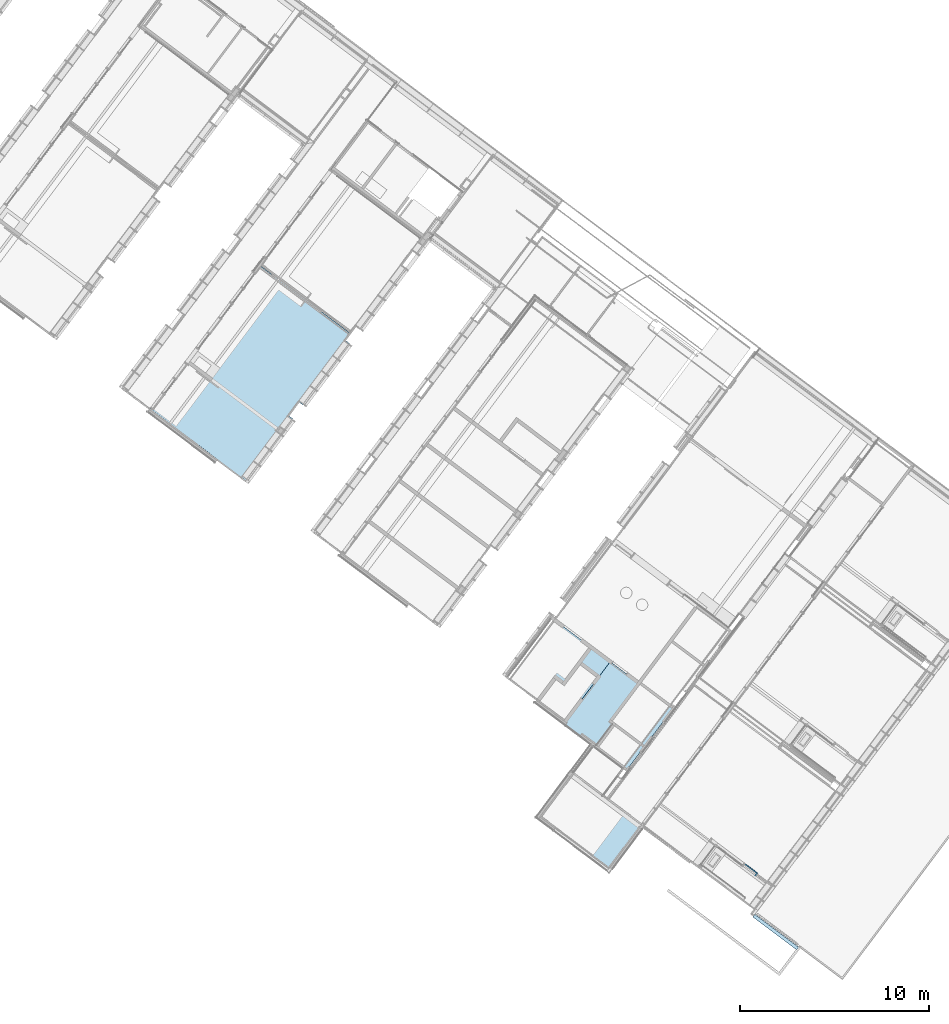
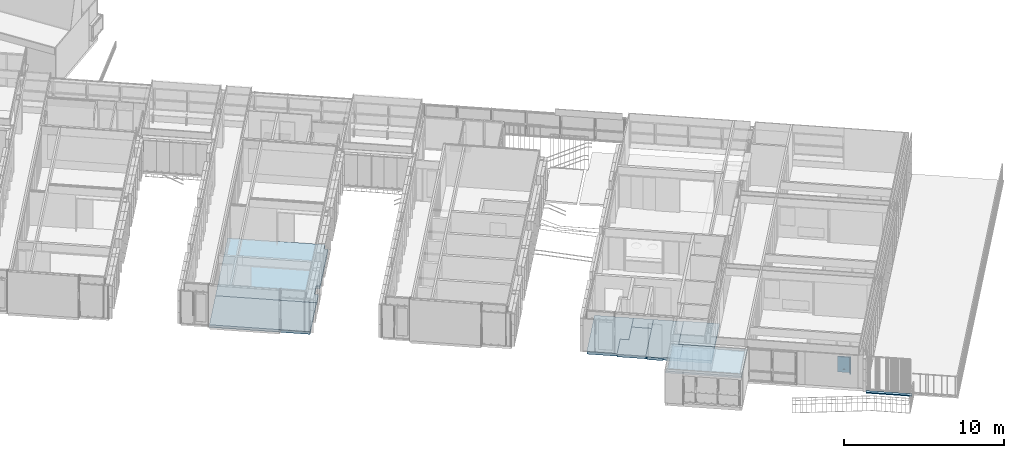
# One storey, part 109 of 243: 10 slabs, 1 plate, 1 element without a shape of its own.
"""IFC2X3 building model written with IfcOpenShell, lengths in metres."""

from ifc_helpers import new_model, entity, si_unit, converted_unit, derived_unit, direction, frame, frame_2d, origin, origin_2d_with_axis, place, context, subcontext, project, spatial, polyline, rectangle, outline, extrude, clip, halfspace, faceted_brep, source, transform, mapped, material, material_list, layer, layer_set, layer_usage, type_object, type_shapes, element, aggregate, save


model = new_model("IFC2X3")

# Units and contexts
model_context = context("Model", 3, precision=1e-05, world=origin(), true_north=direction((6.123031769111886e-17, 1.0)))
body_context = subcontext(model_context, "Body", "Model", "MODEL_VIEW")
ifc_project = project(units=[si_unit("LENGTHUNIT", "METRE"), si_unit("AREAUNIT", "SQUARE_METRE"), si_unit("VOLUMEUNIT", "CUBIC_METRE"), converted_unit("PLANEANGLEUNIT", "DEGREE", entity("IfcRatioMeasure", 0.017453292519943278), si_unit("PLANEANGLEUNIT", "RADIAN"), dimensions=[0, 0, 0, 0, 0, 0, 0]), si_unit("MASSUNIT", "GRAM", prefix="KILO"), derived_unit("MASSDENSITYUNIT", [(si_unit("MASSUNIT", "GRAM", prefix="KILO"), 1), (si_unit("LENGTHUNIT", "METRE"), -3)]), derived_unit("IONCONCENTRATIONUNIT", [(si_unit("MASSUNIT", "GRAM", prefix="KILO"), 1), (si_unit("LENGTHUNIT", "METRE"), -3)]), derived_unit("MOMENTOFINERTIAUNIT", [(si_unit("LENGTHUNIT", "METRE"), 4)]), si_unit("TIMEUNIT", "SECOND"), si_unit("FREQUENCYUNIT", "HERTZ"), si_unit("THERMODYNAMICTEMPERATUREUNIT", "DEGREE_CELSIUS"), derived_unit("THERMALTRANSMITTANCEUNIT", [(si_unit("MASSUNIT", "GRAM", prefix="KILO"), 1), (si_unit("THERMODYNAMICTEMPERATUREUNIT", "KELVIN"), -1), (si_unit("TIMEUNIT", "SECOND"), -3)]), derived_unit("THERMALCONDUCTANCEUNIT", [(si_unit("MASSUNIT", "GRAM", prefix="KILO"), 1), (si_unit("THERMODYNAMICTEMPERATUREUNIT", "KELVIN"), -1), (si_unit("TIMEUNIT", "SECOND"), -3), (si_unit("LENGTHUNIT", "METRE"), 1)]), derived_unit("VOLUMETRICFLOWRATEUNIT", [(si_unit("LENGTHUNIT", "METRE"), 3), (si_unit("TIMEUNIT", "SECOND"), -1)]), derived_unit("MASSFLOWRATEUNIT", [(si_unit("MASSUNIT", "GRAM", prefix="KILO"), 1), (si_unit("TIMEUNIT", "SECOND"), -1)]), derived_unit("ROTATIONALFREQUENCYUNIT", [(si_unit("TIMEUNIT", "SECOND"), -1)]), si_unit("ELECTRICCURRENTUNIT", "AMPERE"), si_unit("ELECTRICVOLTAGEUNIT", "VOLT"), si_unit("POWERUNIT", "WATT"), si_unit("FORCEUNIT", "NEWTON", prefix="KILO"), si_unit("ILLUMINANCEUNIT", "LUX"), si_unit("LUMINOUSFLUXUNIT", "LUMEN"), si_unit("LUMINOUSINTENSITYUNIT", "CANDELA"), derived_unit("USERDEFINED", [(si_unit("MASSUNIT", "GRAM", prefix="KILO"), -1), (si_unit("LENGTHUNIT", "METRE"), -2), (si_unit("TIMEUNIT", "SECOND"), 3), (si_unit("LUMINOUSFLUXUNIT", "LUMEN"), 1)]), derived_unit("USERDEFINED", [(si_unit("MASSUNIT", "GRAM", prefix="KILO"), 1), (si_unit("TIMEUNIT", "SECOND"), -3), (si_unit("LENGTHUNIT", "METRE"), 3), (si_unit("ELECTRICCURRENTUNIT", "AMPERE"), -2)]), derived_unit("SOUNDPOWERUNIT", [(si_unit("MASSUNIT", "GRAM", prefix="KILO"), 1), (si_unit("TIMEUNIT", "SECOND"), -3), (si_unit("LENGTHUNIT", "METRE"), 2)]), derived_unit("SOUNDPRESSUREUNIT", [(si_unit("MASSUNIT", "GRAM", prefix="KILO"), 1), (si_unit("LENGTHUNIT", "METRE"), -1), (si_unit("TIMEUNIT", "SECOND"), -2)]), derived_unit("LINEARVELOCITYUNIT", [(si_unit("LENGTHUNIT", "METRE"), 1), (si_unit("TIMEUNIT", "SECOND"), -1)]), si_unit("PRESSUREUNIT", "PASCAL"), derived_unit("USERDEFINED", [(si_unit("MASSUNIT", "GRAM", prefix="KILO"), 1), (si_unit("LENGTHUNIT", "METRE"), -2), (si_unit("TIMEUNIT", "SECOND"), -2)]), derived_unit("LINEARFORCEUNIT", [(si_unit("MASSUNIT", "GRAM", prefix="KILO"), 1), (si_unit("TIMEUNIT", "SECOND"), -2)]), derived_unit("PLANARFORCEUNIT", [(si_unit("MASSUNIT", "GRAM", prefix="KILO"), 1), (si_unit("LENGTHUNIT", "METRE"), -1), (si_unit("TIMEUNIT", "SECOND"), -2)]), derived_unit("SPECIFICHEATCAPACITYUNIT", [(si_unit("THERMODYNAMICTEMPERATUREUNIT", "KELVIN"), -1), (si_unit("LENGTHUNIT", "METRE"), 2), (si_unit("TIMEUNIT", "SECOND"), -2)]), derived_unit("HEATINGVALUEUNIT", [(si_unit("LENGTHUNIT", "METRE"), 2), (si_unit("TIMEUNIT", "SECOND"), -2)]), derived_unit("VAPORPERMEABILITYUNIT", [(si_unit("LENGTHUNIT", "METRE"), -1), (si_unit("TIMEUNIT", "SECOND"), 1)]), derived_unit("DYNAMICVISCOSITYUNIT", [(si_unit("MASSUNIT", "GRAM", prefix="KILO"), 1), (si_unit("TIMEUNIT", "SECOND"), -1), (si_unit("LENGTHUNIT", "METRE"), -1)]), derived_unit("THERMALEXPANSIONCOEFFICIENTUNIT", [(si_unit("THERMODYNAMICTEMPERATUREUNIT", "KELVIN"), -1)]), derived_unit("MODULUSOFELASTICITYUNIT", [(si_unit("MASSUNIT", "GRAM", prefix="KILO"), 1), (si_unit("LENGTHUNIT", "METRE"), -1), (si_unit("TIMEUNIT", "SECOND"), -2)]), derived_unit("ISOTHERMALMOISTURECAPACITYUNIT", [(si_unit("LENGTHUNIT", "METRE"), 3), (si_unit("MASSUNIT", "GRAM", prefix="KILO"), -1)]), derived_unit("MOISTUREDIFFUSIVITYUNIT", [(si_unit("TIMEUNIT", "SECOND"), -1), (si_unit("LENGTHUNIT", "METRE"), 2)])], contexts=[model_context])

# Site, building, storey
site_placement = place(None, frame((0.0, 0.0, 235.0), z_axis=(0.0, 0.0, 1.0), x_axis=(-0.7996477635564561, 0.6004693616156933, 0.0)))
site = spatial("IfcSite", under=ifc_project, at=site_placement, Name="Default", CompositionType="ELEMENT")
building_placement = place(site_placement, origin())
building = spatial("IfcBuilding", under=site, at=building_placement, CompositionType="ELEMENT")
storey_placement = place(building_placement, origin())
storey = spatial("IfcBuildingStorey", under=building, at=storey_placement, Name="P0- Escola", CompositionType="ELEMENT", Elevation=0.0)

# Slabs
ifc_material_1 = material(Name="_Formigó antilliscant- T2- PAV")
ifc_layer_1 = layer(ifc_material_1, 0.14)
ifc_material_2 = material(Name="_Aillament")
ifc_layer_2 = layer(ifc_material_2, 0.06)
ifc_layer_set_1 = layer_set([ifc_layer_1, ifc_layer_2], Name="Suelo:PAV- Formigó Antilliscant + aillament- T1- 20 cm")
ifc_layer_usage_1 = layer_usage(ifc_layer_set_1, "AXIS3", "POSITIVE", 0.0)
slab_type_1 = type_object("IfcSlabType", Name="Suelo:PAV- Formigó Antilliscant + aillament- T1- 20 cm", PredefinedType="FLOOR", material=ifc_layer_set_1)
slab_1_placement = place(storey_placement, origin())
element("IfcSlab", 1, at=slab_1_placement, inside=storey, type_object=slab_type_1, material=ifc_layer_usage_1, Name="Suelo:PAV- Formigó Antilliscant + aillament- T1- 20 cm", ObjectType="Suelo:PAV- Formigó Antilliscant + aillament- T1- 20 cm", PredefinedType="FLOOR", context=body_context, shape_type="SweptSolid", body=[
    extrude(outline(polyline([(-2.124333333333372, -1.0043333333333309), (0.26666666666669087, -1.0043333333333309), (0.26666666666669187, -0.45533333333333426), (1.857666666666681, -0.45533333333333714), (1.8576666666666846, 1.4596666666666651), (-2.124333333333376, 1.4596666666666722), (-2.124333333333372, -1.0043333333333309)])), frame((22.18548101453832, -22.147858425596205, 0.0), z_axis=(0.0, 0.0, -1.0), x_axis=(0.0, 1.0, 0.0)), (0.0, 0.0, 1.0), 0.2),
])
slab_2_placement = place(storey_placement, origin())
element("IfcSlab", 2, at=slab_2_placement, inside=storey, type_object=slab_type_1, material=ifc_layer_usage_1, Name="Suelo:PAV- Formigó Antilliscant + aillament- T1- 20 cm", ObjectType="Suelo:PAV- Formigó Antilliscant + aillament- T1- 20 cm", PredefinedType="FLOOR", context=body_context, shape_type="SweptSolid", body=[
    extrude(outline(polyline([(-1.4896666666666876, -1.0269999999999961), (1.575333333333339, -1.0269999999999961), (1.575333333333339, 0.7880000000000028), (-0.08566666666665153, 0.7880000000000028), (-0.08566666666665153, 0.23900000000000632), (-1.4896666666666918, 0.239000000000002), (-1.4896666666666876, -1.0269999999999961)])), frame((20.94214768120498, -21.79552509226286, 0.0), z_axis=(0.0, 0.0, -1.0), x_axis=(0.0, 1.0, 0.0)), (0.0, 0.0, 1.0), 0.2),
])
slab_3_placement = place(storey_placement, origin())
element("IfcSlab", 3, at=slab_3_placement, inside=storey, type_object=slab_type_1, material=ifc_layer_usage_1, Name="Suelo:PAV- Formigó Antilliscant + aillament- T1- 20 cm", ObjectType="Suelo:PAV- Formigó Antilliscant + aillament- T1- 20 cm", PredefinedType="FLOOR", context=body_context, shape_type="SweptSolid", body=[
    extrude(rectangle(XDim=0.9870000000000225, YDim=1.265999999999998, at=origin_2d_with_axis()), frame((20.548147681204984, -23.77869175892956, 0.0), z_axis=(0.0, 0.0, -1.0), x_axis=(0.0, 1.0, 0.0)), (0.0, 0.0, 1.0), 0.2),
])
slab_4_placement = place(storey_placement, origin())
element("IfcSlab", 4, at=slab_4_placement, inside=storey, type_object=slab_type_1, material=ifc_layer_usage_1, Name="Suelo:PAV- Formigó Antilliscant + aillament- T1- 20 cm", ObjectType="Suelo:PAV- Formigó Antilliscant + aillament- T1- 20 cm", PredefinedType="FLOOR", context=body_context, shape_type="SweptSolid", body=[
    extrude(rectangle(XDim=2.5599999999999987, YDim=2.2650000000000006, at=origin_2d_with_axis()), frame((16.89264768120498, -23.03519175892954, 0.0), z_axis=(0.0, 0.0, -1.0), x_axis=(0.0, 1.0, 0.0)), (0.0, 0.0, 1.0), 0.2),
])
slab_5_placement = place(storey_placement, origin())
element("IfcSlab", 5, at=slab_5_placement, inside=storey, type_object=slab_type_1, material=ifc_layer_usage_1, Name="Suelo:PAV- Formigó Antilliscant + aillament- T1- 20 cm", ObjectType="Suelo:PAV- Formigó Antilliscant + aillament- T1- 20 cm", PredefinedType="FLOOR", context=body_context, shape_type="SweptSolid", body=[
    extrude(rectangle(XDim=1.5350000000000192, YDim=1.9959999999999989, at=frame_2d((2.1649348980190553e-15, -2.1649348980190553e-15), x_axis=(1.0, 0.0))), frame((16.75814768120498, -20.987691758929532, 0.0), z_axis=(0.0, 0.0, -1.0), x_axis=(0.0, 1.0, 0.0)), (0.0, 0.0, 1.0), 0.2),
])
slab_6_placement = place(storey_placement, origin())
element("IfcSlab", 6, at=slab_6_placement, inside=storey, type_object=slab_type_1, material=ifc_layer_usage_1, Name="Suelo:PAV- Formigó Antilliscant + aillament- T1- 20 cm", ObjectType="Suelo:PAV- Formigó Antilliscant + aillament- T1- 20 cm", PredefinedType="FLOOR", context=body_context, shape_type="SweptSolid", body=[
    extrude(outline(polyline([(-0.42760000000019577, -1.1094735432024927), (1.1023999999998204, -1.1094735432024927), (1.1023999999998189, -0.04808968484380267), (1.172400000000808, -0.04808968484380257), (1.172400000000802, 0.9485103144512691), (1.1023999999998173, 0.9485103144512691), (1.1023999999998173, 1.0495264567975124), (-2.949600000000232, 1.0495264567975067), (-2.9496000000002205, -0.840473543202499), (-0.4276000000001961, -0.840473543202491), (-0.42760000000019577, -1.1094735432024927)])), frame((18.865621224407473, -21.322591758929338, 0.0), z_axis=(0.0, 0.0, -1.0), x_axis=(0.0, 1.0, 0.0)), (0.0, 0.0, 1.0), 0.2),
])
slab_7_placement = place(storey_placement, origin())
element("IfcSlab", 7, at=slab_7_placement, inside=storey, type_object=slab_type_1, material=ifc_layer_usage_1, Name="Suelo:PAV- Formigó Antilliscant + aillament- T1- 20 cm", ObjectType="Suelo:PAV- Formigó Antilliscant + aillament- T1- 20 cm", PredefinedType="FLOOR", context=body_context, shape_type="SweptSolid", body=[
    extrude(outline(polyline([(-2.9145007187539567, -1.37700000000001), (1.1854992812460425, -1.37700000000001), (1.185499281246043, -1.1270000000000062), (2.0854992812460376, -1.1270000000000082), (2.085499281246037, -1.3770000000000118), (3.008001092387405, -1.3770000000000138), (3.0080010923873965, 5.007999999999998), (-3.3644989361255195, 5.008000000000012), (-3.3644989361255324, -1.1270000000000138), (-2.914500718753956, -1.1270000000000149), (-2.9145007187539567, -1.37700000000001)])), frame((42.47214768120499, -26.550691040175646, 0.0), z_axis=(0.0, 0.0, -1.0), x_axis=(0.0, 1.0, 0.0)), (0.0, 0.0, 1.0), 0.2),
])
slab_8_placement = place(storey_placement, origin())
element("IfcSlab", 8, at=slab_8_placement, inside=storey, type_object=slab_type_1, material=ifc_layer_usage_1, Name="Suelo:PAV- Formigó Antilliscant + aillament- T1- 20 cm", ObjectType="Suelo:PAV- Formigó Antilliscant + aillament- T1- 20 cm", PredefinedType="FLOOR", context=body_context, shape_type="SweptSolid", body=[
    extrude(rectangle(XDim=3.197501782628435, YDim=6.364999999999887, at=frame_2d((6.5503158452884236e-15, 0.0), x_axis=(1.0, 0.0))), frame((44.29764768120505, -21.94393905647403, 0.0), z_axis=(0.0, 0.0, -1.0), x_axis=(0.0, 1.0, 0.0)), (0.0, 0.0, 1.0), 0.2),
])
ifc_material_3 = material(Name="_Formigó- T1- STR")
ifc_layer_3 = layer(ifc_material_3, 0.14)
ifc_layer_set_2 = layer_set([ifc_layer_3], Name="Suelo:STR- L- Formigó- Llosa- T1- 14 cm")
ifc_layer_usage_2 = layer_usage(ifc_layer_set_2, "AXIS3", "POSITIVE", 0.0)
slab_type_2 = type_object("IfcSlabType", Name="Suelo:STR- L- Formigó- Llosa- T1- 14 cm", PredefinedType="FLOOR", material=ifc_layer_set_2)
slab_9_placement = place(storey_placement, origin())
element("IfcSlab", 9, at=slab_9_placement, inside=storey, type_object=slab_type_2, material=ifc_layer_usage_2, Name="Suelo:STR- L- Formigó- Llosa- T1- 14 cm", ObjectType="Suelo:STR- L- Formigó- Llosa- T1- 14 cm", PredefinedType="FLOOR", context=body_context, shape_type="SweptSolid", body=[
    extrude(rectangle(XDim=2.990000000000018, YDim=4.79000000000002, at=frame_2d((1.1102230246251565e-15, -8.881784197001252e-16), x_axis=(1.0, 0.0))), frame((15.67014768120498, -16.845191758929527, 2.405), z_axis=(0.0, 0.0, -1.0), x_axis=(0.0, 1.0, 0.0)), (0.0, 0.0, 1.0), 0.14000000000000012),
])

# Curtain wall, plate
curtain_wall_type = type_object("IfcCurtainWallType", Name="Muro cortina:MC- INT- k1", PredefinedType="NOTDEFINED")
curtain_wall_placement = place(storey_placement, origin())
curtain_wall = element("IfcCurtainWall", 10, at=curtain_wall_placement, inside=storey, type_object=curtain_wall_type, Name="Muro cortina:MC- INT- k1", ObjectType="Muro cortina:MC- INT- k1")
ifc_material_4 = material(Name="_Fusta massisa- T1")
ifc_material_5 = material(Name="_Vidre")
ifc_material_list = material_list([ifc_material_4, ifc_material_5])
plate_type = type_object("IfcPlateType", Name="PanellMurCortina_PortaInteriorVidre-infantil inf:PanellMurCortina_PortaInteriorVidre-infantil inf", PredefinedType="CURTAIN_PANEL", material=ifc_material_list)
shared_shape = source(origin(), body_context, "Body", "Brep", [
    faceted_brep([(0.27550000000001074, 0.16299999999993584, 1.0600000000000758), (0.2755000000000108, 0.19299999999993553, 1.0600000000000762), (0.2755000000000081, 0.19299999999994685, 0.239999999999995), (0.2755000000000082, 0.16299999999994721, 0.23999999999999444), (0.29050000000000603, 0.19299999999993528, 1.0750000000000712), (0.29050000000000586, 0.1629999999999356, 1.0750000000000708), (0.2905000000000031, 0.16299999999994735, 0.22499999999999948), (0.2905000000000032, 0.19299999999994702, 0.22499999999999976), (-0.21049999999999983, 0.19299999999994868, 0.2399999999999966), (-0.21049999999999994, 0.16299999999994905, 0.23999999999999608), (-0.2254999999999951, 0.1629999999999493, 0.2250000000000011), (-0.2254999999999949, 0.19299999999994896, 0.22500000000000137), (-0.21049999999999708, 0.1929999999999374, 1.0600000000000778), (-0.2104999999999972, 0.1629999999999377, 1.0600000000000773), (-0.2254999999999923, 0.16299999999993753, 1.0750000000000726), (-0.22549999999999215, 0.19299999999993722, 1.075000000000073)], [[[0, 1, 2, 3]], [[4, 5, 6, 7]], [[3, 2, 8, 9]], [[7, 6, 10, 11]], [[9, 8, 12, 13]], [[11, 10, 14, 15]], [[13, 12, 1, 0]], [[3, 9, 13, 0], [5, 14, 10, 6]], [[15, 14, 5, 4]], [[1, 12, 8, 2], [7, 11, 15, 4]]], outer=[[True], [True], [True], [True], [True], [True], [True], [False, True], [True], [False, True]]),
    faceted_brep([(0.29050000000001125, 0.16299999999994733, 1.0750000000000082), (-0.22549999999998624, 0.16299999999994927, 1.0750000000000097), (-0.2254999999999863, 0.1429999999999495, 1.0750000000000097), (0.2905000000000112, 0.14299999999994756, 1.0750000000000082), (0.29050000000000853, 0.16299999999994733, 0.2249999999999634), (0.2905000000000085, 0.14299999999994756, 0.2249999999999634), (-0.22549999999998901, 0.1429999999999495, 0.22499999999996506), (-0.22549999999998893, 0.16299999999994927, 0.22499999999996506)], [[[0, 1, 2, 3]], [[4, 5, 6, 7]], [[1, 0, 4, 7]], [[2, 1, 7, 6]], [[3, 2, 6, 5]], [[0, 3, 5, 4]]]),
    faceted_brep([(0.4225000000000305, 0.15799999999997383, 1.184999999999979), (-0.40749999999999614, 0.15799999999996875, 1.184999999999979), (-0.4074999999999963, 0.12799999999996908, 1.184999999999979), (0.39250000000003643, 0.12799999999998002, 1.184999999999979), (0.39918172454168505, 0.1287535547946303, 1.184999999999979), (0.40552006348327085, 0.1309726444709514, 1.184999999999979), (0.41120592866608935, 0.13454604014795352, 1.184999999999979), (0.41595395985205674, 0.13929407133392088, 1.184999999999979), (0.41952735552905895, 0.14497993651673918, 1.184999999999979), (0.4217469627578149, 0.15132054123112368, 1.184999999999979), (0.4137132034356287, 0.1367867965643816, 0.004999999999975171), (0.4075000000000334, 0.1320192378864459, 0.004999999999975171), (0.4002645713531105, 0.12902222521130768, 0.004999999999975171), (0.39250000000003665, 0.12799999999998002, 0.004999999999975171), (-0.4074999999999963, 0.12799999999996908, 0.004999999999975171), (-0.40749999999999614, 0.15799999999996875, 0.004999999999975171), (-0.42249999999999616, 0.15799999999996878, 0.004999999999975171), (-0.42249999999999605, 0.18799999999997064, 0.004999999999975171), (0.39250000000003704, 0.18799999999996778, 0.004999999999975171), (0.40026457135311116, 0.18697777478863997, 0.004999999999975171), (0.40750000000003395, 0.18398076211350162, 0.004999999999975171), (0.41371320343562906, 0.17921320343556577, 0.004999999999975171), (0.4184807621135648, 0.1729999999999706, 0.004999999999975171), (0.4214777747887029, 0.16576457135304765, 0.004999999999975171), (0.42250000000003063, 0.15799999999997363, 0.004999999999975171), (0.4214777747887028, 0.15023542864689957, 0.004999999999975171), (0.4184807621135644, 0.1429999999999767, 0.004999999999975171), (-0.21049999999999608, 0.1429999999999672, 1.0599999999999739), (-0.21049999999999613, 0.1279999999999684, 1.0599999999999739), (-0.21049999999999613, 0.1279999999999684, 0.23999999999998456), (-0.21049999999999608, 0.1429999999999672, 0.23999999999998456), (0.2903124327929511, 0.14299999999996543, 1.0749999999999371), (0.2755000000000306, 0.14299999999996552, 1.0599999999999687), (0.2755000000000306, 0.14299999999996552, 0.23999999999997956), (-0.2254999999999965, 0.14299999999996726, 1.0749999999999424), (0.2903124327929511, 0.14299999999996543, 0.22499999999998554), (-0.2254999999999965, 0.14299999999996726, 0.22499999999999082), (-0.22549999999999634, 0.18799999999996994, 1.0749999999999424), (-0.22549999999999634, 0.18799999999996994, 0.22499999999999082), (0.3925000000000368, 0.18799999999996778, 1.199999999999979), (0.3925000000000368, 0.18799999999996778, 1.184999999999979), (0.2903124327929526, 0.18799999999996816, 1.0749999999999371), (-0.42249999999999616, 0.18799999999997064, 1.199999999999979), (0.29031243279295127, 0.18799999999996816, 0.22499999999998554), (0.39250000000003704, 0.18799999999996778, 0.8025029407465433), (0.392500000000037, 0.18799999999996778, 0.420005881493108), (0.39250000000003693, 0.18799999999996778, 0.19624852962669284), (-0.42249999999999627, 0.15799999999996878, 1.199999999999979), (0.4225000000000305, 0.15799999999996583, 1.199999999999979), (0.2755000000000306, 0.1279999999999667, 0.23999999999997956), (0.3925000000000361, 0.12799999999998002, 0.19624503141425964), (0.3925000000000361, 0.12799999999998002, 0.4200079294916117), (0.3925000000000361, 0.12799999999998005, 0.8025019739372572), (0.2755000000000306, 0.1279999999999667, 1.0599999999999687), (0.41848076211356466, 0.1729999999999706, 1.1999999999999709), (0.41371320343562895, 0.17921320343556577, 1.199999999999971), (0.4075000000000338, 0.1839807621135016, 1.199999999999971), (0.400264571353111, 0.18697777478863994, 1.199999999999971), (0.4214777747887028, 0.16576457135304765, 1.1999999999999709), (0.39803298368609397, 0.1285146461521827, 0.30812720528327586), (0.40398050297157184, 0.13028361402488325, 0.3495967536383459), (0.4202163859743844, 0.1694805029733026, 0.9192462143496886), (0.42021638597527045, 0.1694805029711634, 0.5552842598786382), (0.41630060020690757, 0.17626284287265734, 0.8348288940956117), (0.4202163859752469, 0.1694805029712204, 0.26042447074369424), (0.41630060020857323, 0.1762628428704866, 0.3392951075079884), (0.42208034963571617, 0.16300029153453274, 0.5921116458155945), (0.42231114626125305, 0.15463911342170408, 0.5950000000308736), (0.42224334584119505, 0.16191578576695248, 0.33929510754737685), (0.4024131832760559, 0.12968518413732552, 0.9691144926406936), (0.42224334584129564, 0.15408421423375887, 0.26951946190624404), (0.39875948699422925, 0.18733971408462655, 0.6108189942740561), (0.4048786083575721, 0.1853270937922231, 0.5949999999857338), (0.4039805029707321, 0.1857163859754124, 0.3551711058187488), (0.39791837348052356, 0.12849336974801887, 0.5506590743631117), (0.4107628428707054, 0.13419939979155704, 0.26059581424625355), (0.3981126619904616, 0.18747029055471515, 0.9440836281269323), (0.4002645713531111, 0.1869777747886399, 1.184999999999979), (0.403980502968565, 0.18571638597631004, 0.8348288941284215), (0.4202163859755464, 0.14651949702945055, 0.3660157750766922), (0.40241318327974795, 0.12968518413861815, 0.7190366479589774), (0.4163006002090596, 0.13973715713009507, 0.27567279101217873), (0.4132780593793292, 0.13636040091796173, 0.8385075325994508), (0.4083604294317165, 0.13253538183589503, 0.6408327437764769), (0.41371320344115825, 0.13678679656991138, 0.6017493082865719), (0.408463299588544, 0.13259974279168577, 0.9007300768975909), (0.3980476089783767, 0.18748260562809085, 0.3081272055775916), (0.4176643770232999, 0.1416673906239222, 0.5120494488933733), (0.41732286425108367, 0.14115288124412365, 0.8063880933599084), (0.42234327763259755, 0.15493752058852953, 0.9332073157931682), (0.42224334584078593, 0.16191578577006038, 0.8449281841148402), (0.4208151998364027, 0.14808791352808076, 0.8494345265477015), (0.41076284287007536, 0.18180060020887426, 0.26951946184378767), (0.4107628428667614, 0.18180060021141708, 0.595000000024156), (0.41076284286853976, 0.18180060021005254, 0.9169571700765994), (0.4214777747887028, 0.16576457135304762, 1.184999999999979), (0.413713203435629, 0.1792132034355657, 1.184999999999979), (0.4184807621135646, 0.17299999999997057, 1.184999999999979), (0.41558155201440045, 0.1771635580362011, 0.5870620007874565), (0.40750000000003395, 0.18398076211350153, 1.184999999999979), (0.4203955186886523, 0.1469618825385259, 0.6094956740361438)], [[[0, 1, 2, 3, 4, 5, 6, 7, 8, 9]], [[10, 11, 12, 13, 14, 15, 16, 17, 18, 19, 20, 21, 22, 23, 24, 25, 26]], [[27, 28, 29, 30]], [[31, 32, 27]], [[32, 31, 33]], [[27, 34, 31]], [[35, 33, 31]], [[33, 35, 30]], [[36, 30, 35]], [[30, 36, 34]], [[34, 27, 30]], [[37, 34, 36, 38]], [[39, 40, 41]], [[37, 39, 41]], [[39, 37, 42]], [[40, 43, 41]], [[43, 40, 44]], [[43, 44, 45]], [[43, 45, 46]], [[43, 46, 18]], [[43, 18, 38]], [[17, 38, 18]], [[38, 17, 42]], [[38, 42, 37]], [[47, 42, 17, 16]], [[0, 48, 47, 16, 15, 1]], [[2, 1, 15, 14]], [[2, 28, 3]], [[28, 2, 29]], [[14, 29, 2]], [[29, 14, 13]], [[13, 49, 29]], [[49, 13, 50]], [[49, 50, 51]], [[49, 51, 52]], [[49, 52, 3]], [[3, 53, 49]], [[53, 3, 28]], [[31, 41, 43, 35]], [[53, 32, 33, 49]], [[32, 53, 28, 27]], [[41, 31, 34, 37]], [[54, 55, 56, 57, 39, 42, 47, 48, 58]], [[35, 43, 38, 36]], [[49, 33, 30, 29]], [[59, 12, 60]], [[61, 62, 63]], [[64, 65, 62]], [[66, 67, 68]], [[4, 69, 5]], [[68, 70, 24]], [[71, 72, 73]], [[59, 74, 51]], [[10, 75, 11]], [[76, 77, 78]], [[26, 25, 79]], [[12, 11, 60]], [[52, 80, 69]], [[81, 26, 79]], [[82, 83, 84]], [[23, 64, 68]], [[69, 85, 5]], [[73, 86, 71]], [[6, 85, 82]], [[87, 88, 84]], [[19, 18, 46]], [[39, 57, 77, 40]], [[89, 67, 90]], [[8, 91, 9]], [[24, 70, 25]], [[4, 3, 52]], [[64, 23, 22]], [[44, 76, 71]], [[86, 46, 45]], [[24, 23, 68]], [[65, 92, 93]], [[93, 94, 63]], [[40, 77, 76]], [[21, 92, 65]], [[61, 95, 90]], [[96, 97, 63]], [[26, 81, 10]], [[98, 62, 65]], [[78, 77, 99]], [[89, 90, 0]], [[0, 90, 95]], [[5, 85, 6]], [[12, 59, 50]], [[94, 93, 78]], [[93, 92, 73]], [[87, 84, 81]], [[97, 95, 61]], [[63, 94, 96]], [[88, 8, 7]], [[100, 67, 91]], [[65, 22, 21]], [[94, 99, 96]], [[9, 91, 89]], [[10, 81, 75]], [[20, 19, 73]], [[83, 85, 80]], [[74, 52, 51]], [[82, 84, 88]], [[66, 68, 62]], [[70, 67, 79]], [[21, 20, 92]], [[63, 98, 93]], [[87, 81, 79]], [[84, 83, 75]], [[78, 99, 94]], [[61, 90, 66]], [[63, 97, 61]], [[67, 70, 68]], [[79, 25, 70]], [[20, 73, 92]], [[65, 64, 22]], [[68, 64, 62]], [[84, 75, 81]], [[60, 11, 75]], [[52, 69, 4]], [[85, 69, 80]], [[50, 59, 51]], [[50, 13, 12]], [[74, 60, 80]], [[60, 74, 59]], [[52, 74, 80]], [[71, 86, 45]], [[46, 86, 19]], [[19, 86, 73]], [[44, 71, 45]], [[71, 78, 72]], [[80, 60, 83]], [[75, 83, 60]], [[79, 100, 87]], [[87, 100, 88]], [[8, 88, 91]], [[7, 6, 82]], [[67, 100, 79]], [[88, 100, 91]], [[7, 82, 88]], [[83, 82, 85]], [[78, 93, 72]], [[93, 73, 72]], [[71, 76, 78]], [[40, 76, 44]], [[9, 89, 0]], [[67, 89, 91]], [[61, 66, 62]], [[67, 66, 90]], [[62, 98, 63]], [[65, 93, 98]], [[58, 48, 0, 95]], [[54, 58, 95, 97]], [[55, 54, 97, 96]], [[56, 55, 96, 99]], [[57, 56, 99, 77]]]),
    faceted_brep([(-0.42249999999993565, 0.15772492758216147, 0.0), (-0.409500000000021, 0.15772492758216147, 0.0), (-0.409500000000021, 0.12799999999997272, 0.0), (-0.41749999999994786, 0.12799999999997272, 0.0), (-0.41749999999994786, 0.13199999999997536, 0.0), (-0.42249999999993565, 0.13199999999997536, 0.0), (-0.42249999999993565, 0.15772492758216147, 1.1999999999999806), (-0.409500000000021, 0.15772492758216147, 1.1999999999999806), (-0.409500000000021, 0.12799999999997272, 1.1999999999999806), (-0.41749999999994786, 0.12799999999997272, 1.1999999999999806), (-0.41749999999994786, 0.13199999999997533, 1.1999999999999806), (-0.42249999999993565, 0.13199999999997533, 1.1999999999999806)], [[[0, 1, 2, 3, 4, 5]], [[6, 7, 1, 0]], [[7, 8, 2, 1]], [[8, 9, 3, 2]], [[9, 10, 4, 3]], [[10, 11, 5, 4]], [[11, 6, 0, 5]], [[6, 11, 10, 9, 8, 7]]]),
    faceted_brep([(0.4225000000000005, -0.026000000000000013, 1.2000000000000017), (0.4225000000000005, 0.12400000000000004, 1.2000000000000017), (0.3525000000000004, 0.12400000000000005, 1.2000000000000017), (0.3525000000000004, -0.026000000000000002, 1.2000000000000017), (0.4225000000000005, -0.026000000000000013, 0.0), (0.3525000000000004, -0.026000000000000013, 0.0), (0.3525000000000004, 0.12400000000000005, 0.0), (0.4225000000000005, 0.12400000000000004, 0.0)], [[[0, 1, 2, 3]], [[4, 5, 6, 7]], [[3, 5, 4, 0]], [[2, 6, 5, 3]], [[1, 7, 6, 2]], [[0, 4, 7, 1]]]),
])
type_shapes(plate_type, [shared_shape])
plate_placement = place(curtain_wall_placement, frame((7.346647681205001, -19.827191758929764, 0.0), z_axis=(0.0, 0.0, 1.0), x_axis=(-1.0, 0.0, 0.0)))
plate = element("IfcPlate", 11, at=plate_placement, type_object=plate_type, material=ifc_material_list, Name="PanellMurCortina_PortaInteriorVidre-infantil inf:PanellMurCortina_PortaInteriorVidre-infantil inf", ObjectType="PanellMurCortina_PortaInteriorVidre-infantil inf:PanellMurCortina_PortaInteriorVidre-infantil inf", context=body_context, shape_type="MappedRepresentation", body=[
    mapped(shared_shape, transform((0.0, 0.0, 0.0), scale=1.0)),
])
aggregate(curtain_wall, [plate])

# Slab
ifc_material_6 = material(Name="_Formigó antilliscant- T1 ext- PAV")
ifc_layer_4 = layer(ifc_material_6, 0.07499999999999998)
ifc_layer_set_3 = layer_set([ifc_layer_4], Name="Suelo:PAV- Formigó Antilliscant- T1 ext- 7.5cm")
ifc_layer_usage_3 = layer_usage(ifc_layer_set_3, "AXIS3", "POSITIVE", 0.0)
slab_type_3 = type_object("IfcSlabType", Name="Suelo:PAV- Formigó Antilliscant- T1 ext- 7.5cm", PredefinedType="FLOOR", material=ifc_layer_set_3)
slab_10_placement = place(storey_placement, origin())
element("IfcSlab", 12, at=slab_10_placement, inside=storey, type_object=slab_type_3, material=ifc_layer_usage_3, Name="Suelo:PAV- Formigó Antilliscant- T1 ext- 7.5cm", ObjectType="Suelo:PAV- Formigó Antilliscant- T1 ext- 7.5cm", PredefinedType="FLOOR", context=body_context, shape_type="SweptSolid", body=[
    clip(clip(extrude(rectangle(XDim=0.1761856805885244, YDim=2.900314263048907, at=frame_2d((1.0894063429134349e-15, -5.551115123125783e-16), x_axis=(1.0, 0.0))), frame((4.294990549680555, -18.07771517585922, -0.009999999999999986), z_axis=(0.0, -0.11351660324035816, -0.99353609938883), x_axis=(0.0, 0.99353609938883, -0.11351660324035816)), (0.11351660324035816, 0.0, 0.99353609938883), 0.07597906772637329), halfspace(frame((4.294990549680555, -17.99019175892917, -0.09548794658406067), z_axis=(0.0, -0.11351660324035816, -0.99353609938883), x_axis=(0.0, -0.99353609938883, 0.11351660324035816)), False)), halfspace(frame((4.294990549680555, -17.99019175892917, -0.02), z_axis=(0.0, 0.11351660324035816, 0.99353609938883), x_axis=(0.0, 0.99353609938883, -0.11351660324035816)), False)),
])

save(model, "model.ifc")
